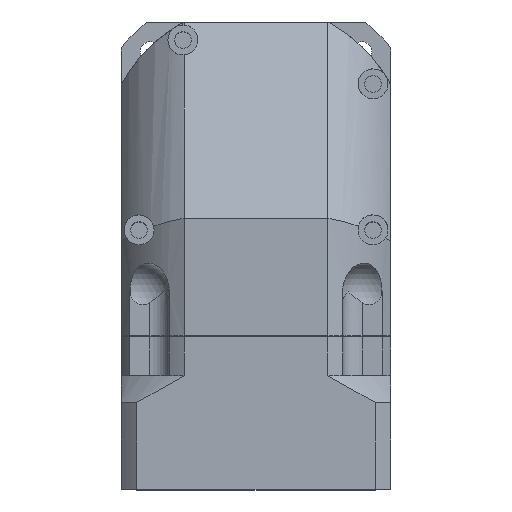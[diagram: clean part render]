
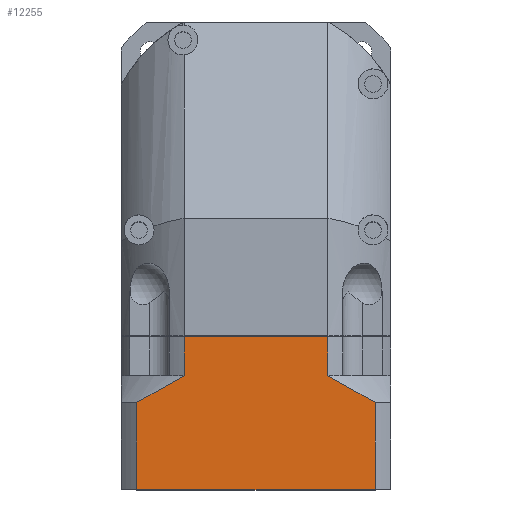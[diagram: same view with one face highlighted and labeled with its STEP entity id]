
A CAD part, top view. The second image highlights one B-rep face of the part: STEP entity #12255.
In plain terms, the highlighted planar face has unit normal (0, 0, 1) as drawn and (0, 0, -1) by its records, which use the part's own axes.
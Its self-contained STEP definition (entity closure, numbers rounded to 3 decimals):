
#10915=DIRECTION('',(-1.,0.,0.));
#10916=VECTOR('',#10915,79.373);
#10917=CARTESIAN_POINT('',(39.686,51.,-45.));
#10918=LINE('',#10917,#10916);
#11047=DIRECTION('',(0.,1.,0.));
#11048=VECTOR('',#11047,29.);
#11049=CARTESIAN_POINT('',(-39.686,22.,-45.));
#11050=LINE('',#11049,#11048);
#11051=CARTESIAN_POINT('',(-24.,13.,-45.));
#11052=CARTESIAN_POINT('',(-25.183,13.557,-45.));
#11053=CARTESIAN_POINT('',(-27.606,14.761,-45.));
#11054=CARTESIAN_POINT('',(-31.377,16.829,-45.));
#11055=CARTESIAN_POINT('',(-35.365,19.203,-45.));
#11056=CARTESIAN_POINT('',(-38.217,21.028,-45.));
#11057=CARTESIAN_POINT('',(-39.686,22.,-45.));
#11059=DIRECTION('',(0.,1.,0.));
#11060=VECTOR('',#11059,13.);
#11061=CARTESIAN_POINT('',(24.,0.,-45.));
#11062=LINE('',#11061,#11060);
#11063=CARTESIAN_POINT('',(39.686,22.,-45.));
#11064=CARTESIAN_POINT('',(38.211,21.024,-45.));
#11065=CARTESIAN_POINT('',(35.349,19.193,-45.));
#11066=CARTESIAN_POINT('',(31.35,16.813,-45.));
#11067=CARTESIAN_POINT('',(27.582,14.749,-45.));
#11068=CARTESIAN_POINT('',(25.174,13.552,-45.));
#11069=CARTESIAN_POINT('',(24.,13.,-45.));
#11071=DIRECTION('',(0.,1.,0.));
#11072=VECTOR('',#11071,29.);
#11073=CARTESIAN_POINT('',(39.686,22.,-45.));
#11074=LINE('',#11073,#11072);
#11253=DIRECTION('',(-1.,0.,0.));
#11254=VECTOR('',#11253,48.);
#11255=CARTESIAN_POINT('',(24.,0.,-45.));
#11256=LINE('',#11255,#11254);
#11267=DIRECTION('',(0.,1.,0.));
#11268=VECTOR('',#11267,13.);
#11269=CARTESIAN_POINT('',(-24.,0.,-45.));
#11270=LINE('',#11269,#11268);
#11719=CARTESIAN_POINT('',(-24.,0.,-45.));
#11721=VERTEX_POINT('',#11719);
#11765=CARTESIAN_POINT('',(24.,0.,-45.));
#11766=VERTEX_POINT('',#11765);
#11807=CARTESIAN_POINT('',(-24.,13.,-45.));
#11808=VERTEX_POINT('',#11807);
#11821=CARTESIAN_POINT('',(24.,13.,-45.));
#11822=VERTEX_POINT('',#11821);
#11824=CARTESIAN_POINT('',(39.686,51.,-45.));
#11826=VERTEX_POINT('',#11824);
#11827=CARTESIAN_POINT('',(-39.686,51.,-45.));
#11829=VERTEX_POINT('',#11827);
#11840=CARTESIAN_POINT('',(39.686,22.,-45.));
#11842=VERTEX_POINT('',#11840);
#11843=CARTESIAN_POINT('',(-39.686,22.,-45.));
#11845=VERTEX_POINT('',#11843);
#12235=CARTESIAN_POINT('',(24.,0.,-45.));
#12236=DIRECTION('',(0.,0.,-1.));
#12237=DIRECTION('',(-1.,0.,0.));
#12238=AXIS2_PLACEMENT_3D('',#12235,#12236,#12237);
#12239=PLANE('',#12238);
#12240=ORIENTED_EDGE('',*,*,#11988,.T.);
#12241=ORIENTED_EDGE('',*,*,#12229,.F.);
#12243=ORIENTED_EDGE('',*,*,#12242,.F.);
#12245=ORIENTED_EDGE('',*,*,#12244,.F.);
#12247=ORIENTED_EDGE('',*,*,#12246,.F.);
#12249=ORIENTED_EDGE('',*,*,#12248,.T.);
#12251=ORIENTED_EDGE('',*,*,#12250,.F.);
#12252=ORIENTED_EDGE('',*,*,#12210,.T.);
#12253=EDGE_LOOP('',(#12240,#12241,#12243,#12245,#12247,#12249,#12251,#12252));
#12254=FACE_OUTER_BOUND('',#12253,.F.);
#11058=B_SPLINE_CURVE_WITH_KNOTS('',3,(#11051,#11052,#11053,#11054,#11055,
#11056,#11057),.UNSPECIFIED.,.F.,.F.,(4,1,1,1,4),(0.,0.25,0.5,0.75,
1.),.UNSPECIFIED.);
#11070=B_SPLINE_CURVE_WITH_KNOTS('',3,(#11063,#11064,#11065,#11066,#11067,
#11068,#11069),.UNSPECIFIED.,.F.,.F.,(4,1,1,1,4),(0.,0.25,0.5,0.75,
1.),.UNSPECIFIED.);
#11988=EDGE_CURVE('',#11826,#11829,#10918,.T.);
#12210=EDGE_CURVE('',#11842,#11826,#11074,.T.);
#12229=EDGE_CURVE('',#11845,#11829,#11050,.T.);
#12242=EDGE_CURVE('',#11808,#11845,#11058,.T.);
#12244=EDGE_CURVE('',#11721,#11808,#11270,.T.);
#12246=EDGE_CURVE('',#11766,#11721,#11256,.T.);
#12248=EDGE_CURVE('',#11766,#11822,#11062,.T.);
#12250=EDGE_CURVE('',#11842,#11822,#11070,.T.);
#12255=ADVANCED_FACE('',(#12254),#12239,.T.);
